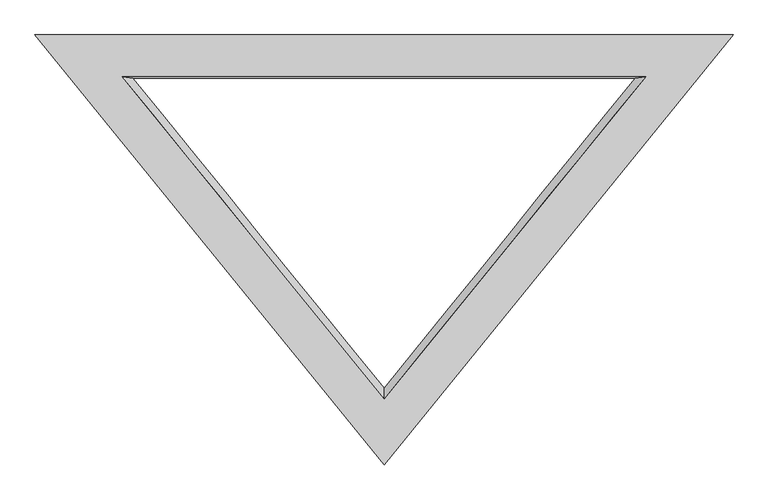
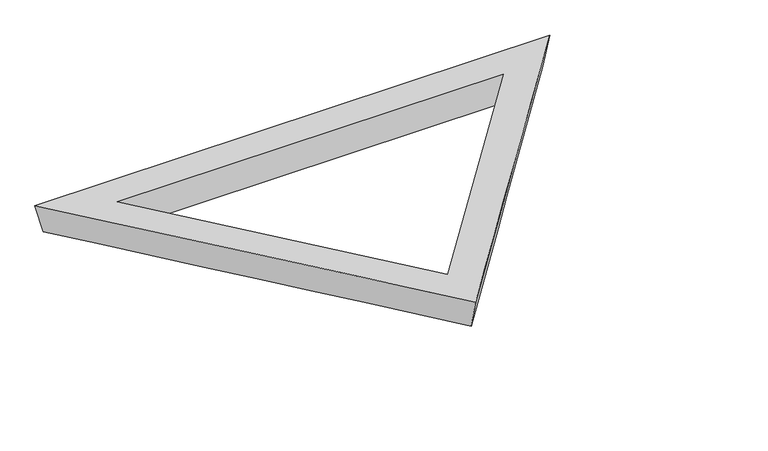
"""IFC4 building model written with IfcOpenShell, lengths in millimetres: plate geometry."""

from ifc_helpers import new_model, si_unit, frame, origin, place, context, project, spatial, source, transform, mapped, element, save
from ifc_brep_helpers import plane_surface, spline_surface, advanced_brep


def plate_7c1d6315(model_context):
    return source(origin(), model_context, "Body", "AdvancedBrep", [
        advanced_brep(
        [(4871.6037931, 5556.9564051, 0.0), (4820.0980744, 5563.8923205, 196.2409229), (6096.0, 3992.4652319, 196.9166807), (6096.0, 4042.8468962, 0.0), (7371.9019256, 5563.8923205, 196.2409229), (7320.3962069, 5556.9564051, 0.0), (6096.0, 3719.6871899, 0.0), (7746.0409996, 5760.1564051, 0.0), (7798.6330296, 5767.0923017, 196.1535412), (6096.0, 3670.094397, 197.0553092), (4445.9590004, 5760.1564051, 0.0), (4393.3669704, 5767.0923017, 196.1535412)],
        [
            (0, 1),
            (1, 2),
            (2, 3),
            (3, 0),
            (2, 4),
            (4, 5),
            (5, 3),
            (0, 5),
            (4, 1),
            (6, 7),
            (7, 8),
            (8, 9),
            (9, 6),
            (7, 10),
            (10, 11),
            (11, 8),
            (9, 11),
            (10, 6),
        ],
        [
            spline_surface(1, 1, [[(4871.6037931, 5556.9564051, 0.0), (6096.0, 4042.8468962, 0.0)], [(4820.0980744, 5563.8923205, 196.2409229), (6096.0, 3992.4652319, 196.9166807)]], [2, 2], [2, 2], [0.0, 1.0], [0.0, 1.0]),
            spline_surface(1, 1, [[(6096.0, 4042.8468962, 0.0), (7320.3962069, 5556.9564051, 0.0)], [(6096.0, 3992.4652319, 196.9166807), (7371.9019256, 5563.8923205, 196.2409229)]], [2, 2], [2, 2], [0.0, 1.0], [0.0, 1.0]),
            plane_surface(frame((6096.0, 5556.9564051, 0.0), z_axis=(0.0, -0.9993759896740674, 0.03532182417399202), x_axis=(-1.0, 0.0, 1.269705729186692e-12))),
            spline_surface(1, 1, [[(6096.0, 3719.6871899, 0.0), (6096.0, 3670.094397, 197.0553092)], [(7746.0409996, 5760.1564051, 0.0), (7798.6330296, 5767.0923017, 196.1535412)]], [2, 2], [2, 2], [0.0, 1.0], [0.0, 1.0]),
            plane_surface(frame((6096.0, 5760.1564051, 0.0), z_axis=(0.0, 0.9993754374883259, -0.03533744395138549), x_axis=(-1.0, 0.0, 1.26970560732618e-12))),
            spline_surface(1, 1, [[(4445.9590004, 5760.1564051, 0.0), (4393.3669704, 5767.0923017, 196.1535412)], [(6096.0, 3719.6871899, 0.0), (6096.0, 3670.094397, 197.0553092)]], [2, 2], [2, 2], [0.0, 1.0], [0.0, 1.0]),
            plane_surface(frame((6096.0, 5068.0930001, 196.4541305), z_axis=(1.2697047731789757e-12, 0.00043002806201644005, 0.9999999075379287), x_axis=(0.6303299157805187, -0.776327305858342, 0.0003338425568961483))),
            plane_surface(frame((6096.0, 5080.0, 0.0), z_axis=(-1.2697121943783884e-12, 0.0, -1.0), x_axis=(-0.6287912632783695, 0.7775741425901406, 0.0))),
        ],
        [
            (0, [[1, 2, 3, 4]]),
            (1, [[-3, 5, 6, 7]]),
            (2, [[-1, 8, -6, 9]]),
            (3, [[10, 11, 12, 13]]),
            (4, [[-11, 14, 15, 16]]),
            (5, [[-13, 17, -15, 18]]),
            (6, [[-12, -16, -17], [-2, -9, -5]]),
            (7, [[-10, -18, -14], [-4, -7, -8]]),
        ],
    ),
    ])


if __name__ == "__main__":
    model = new_model("IFC4")
    model_context = context("Model", 3, world=origin())
    ifc_project = project(units=[si_unit("LENGTHUNIT", "METRE", prefix="MILLI")], contexts=[model_context])
    site = spatial("IfcSite", under=ifc_project)
    building = spatial("IfcBuilding", under=site)
    placement = place(None, origin())
    plate_shape = plate_7c1d6315(model_context)
    element("IfcPlate", 1, ObjectType="tn_cpanel_patbase_triangle_flat_seamless_frame_02_cylinder : tn_cpanel_pattern_mullion_t8\"xh8\"", at=placement, inside=building, context=model_context, shape_type="MappedRepresentation", body=[
        mapped(plate_shape, transform((0.0, 0.0, 0.0), x_axis=(1.0, 0.0, 0.0), y_axis=(0.0, 1.0, 0.0), z_axis=(0.0, 0.0, 1.0))),
    ])
    save(model, "model.ifc")
